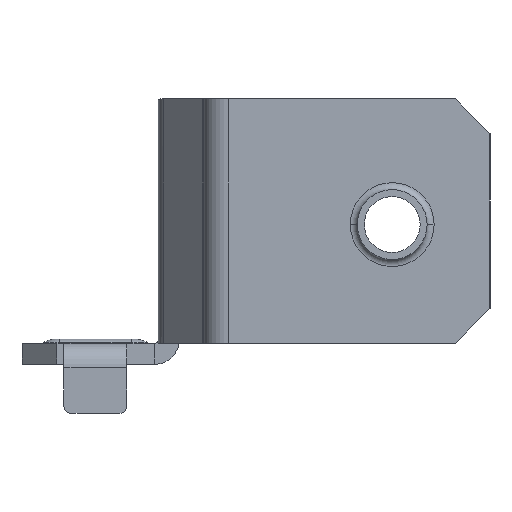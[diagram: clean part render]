
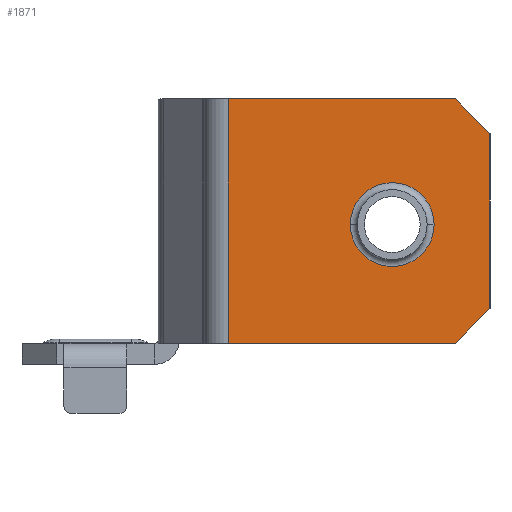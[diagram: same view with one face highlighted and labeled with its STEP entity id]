
A CAD part, left-side view. The second image highlights one B-rep face of the part: STEP entity #1871.
In plain terms, the highlighted planar face has unit normal (-1, 0, 0).
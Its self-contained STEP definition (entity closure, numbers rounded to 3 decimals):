
#232 = CARTESIAN_POINT ( 'NONE',  ( -35.339, -44.501, 30. ) ) ;
#583 = VECTOR ( 'NONE', #1451, 1000. ) ;
#662 = FACE_OUTER_BOUND ( 'NONE', #3016, .T. ) ;
#705 = CARTESIAN_POINT ( 'NONE',  ( -35.339, -7.001, 0. ) ) ;
#761 = DIRECTION ( 'NONE',  ( 1., 0., 0. ) ) ;
#793 = PLANE ( 'NONE',  #2130 ) ;
#794 = CARTESIAN_POINT ( 'NONE',  ( -35.339, -44.501, 5. ) ) ;
#816 = EDGE_CURVE ( 'NONE', #2489, #2103, #2061, .T. ) ;
#822 = CARTESIAN_POINT ( 'NONE',  ( -35.339, -39.501, 35. ) ) ;
#865 = DIRECTION ( 'NONE',  ( 0., 1., 0. ) ) ;
#927 = EDGE_CURVE ( 'NONE', #1889, #1491, #2475, .T. ) ;
#970 = CARTESIAN_POINT ( 'NONE',  ( -35.339, -6.501, 0. ) ) ;
#1127 = ORIENTED_EDGE ( 'NONE', *, *, #816, .T. ) ;
#1199 = DIRECTION ( 'NONE',  ( 0., 0., 1. ) ) ;
#1309 = CARTESIAN_POINT ( 'NONE',  ( -35.339, -39.501, 35. ) ) ;
#1378 = EDGE_CURVE ( 'NONE', #1491, #2489, #1424, .T. ) ;
#1424 = LINE ( 'NONE', #1751, #2346 ) ;
#1451 = DIRECTION ( 'NONE',  ( 0., 0., 1. ) ) ;
#1491 = VERTEX_POINT ( 'NONE', #3134 ) ;
#1633 = VECTOR ( 'NONE', #3778, 1000. ) ;
#1751 = CARTESIAN_POINT ( 'NONE',  ( -35.339, -44.501, 0. ) ) ;
#1835 = LINE ( 'NONE', #2524, #1939 ) ;
#1871 = ADVANCED_FACE ( 'NONE', ( #2112, #662 ), #793, .F. ) ;
#1886 = EDGE_CURVE ( 'NONE', #2103, #2306, #1835, .T. ) ;
#1889 = VERTEX_POINT ( 'NONE', #3135 ) ;
#1898 = ORIENTED_EDGE ( 'NONE', *, *, #927, .T. ) ;
#1925 = CARTESIAN_POINT ( 'NONE',  ( -35.339, -7.001, 35. ) ) ;
#1939 = VECTOR ( 'NONE', #1947, 1000. ) ;
#1947 = DIRECTION ( 'NONE',  ( 0., 1., 0. ) ) ;
#1974 = CARTESIAN_POINT ( 'NONE',  ( -35.339, -6.501, 0. ) ) ;
#1986 = ORIENTED_EDGE ( 'NONE', *, *, #3104, .T. ) ;
#2002 = VERTEX_POINT ( 'NONE', #2784 ) ;
#2061 = LINE ( 'NONE', #1309, #2965 ) ;
#2103 = VERTEX_POINT ( 'NONE', #822 ) ;
#2112 = FACE_BOUND ( 'NONE', #3731, .T. ) ;
#2128 = LINE ( 'NONE', #1925, #583 ) ;
#2130 = AXIS2_PLACEMENT_3D ( 'NONE', #1974, #3711, #2263 ) ;
#2178 = VERTEX_POINT ( 'NONE', #705 ) ;
#2204 = CARTESIAN_POINT ( 'NONE',  ( -35.339, -30.501, 17. ) ) ;
#2241 = CARTESIAN_POINT ( 'NONE',  ( -35.339, -36.501, 17. ) ) ;
#2263 = DIRECTION ( 'NONE',  ( 0., 1., 0. ) ) ;
#2306 = VERTEX_POINT ( 'NONE', #3248 ) ;
#2346 = VECTOR ( 'NONE', #1199, 1000. ) ;
#2350 = AXIS2_PLACEMENT_3D ( 'NONE', #3779, #2597, #865 ) ;
#2405 = LINE ( 'NONE', #970, #1633 ) ;
#2456 = CIRCLE ( 'NONE', #3145, 6. ) ;
#2475 = LINE ( 'NONE', #794, #2559 ) ;
#2489 = VERTEX_POINT ( 'NONE', #232 ) ;
#2506 = DIRECTION ( 'NONE',  ( 0., 0.707, 0.707 ) ) ;
#2524 = CARTESIAN_POINT ( 'NONE',  ( -35.339, -6.501, 35. ) ) ;
#2559 = VECTOR ( 'NONE', #3674, 1000. ) ;
#2597 = DIRECTION ( 'NONE',  ( 1., 0., 0. ) ) ;
#2652 = DIRECTION ( 'NONE',  ( 0., 1., 0. ) ) ;
#2784 = CARTESIAN_POINT ( 'NONE',  ( -35.339, -24.501, 17. ) ) ;
#2817 = EDGE_CURVE ( 'NONE', #2902, #2002, #2456, .T. ) ;
#2874 = EDGE_CURVE ( 'NONE', #2002, #2902, #3231, .T. ) ;
#2893 = ORIENTED_EDGE ( 'NONE', *, *, #3256, .F. ) ;
#2902 = VERTEX_POINT ( 'NONE', #2241 ) ;
#2965 = VECTOR ( 'NONE', #2506, 1000. ) ;
#2967 = ORIENTED_EDGE ( 'NONE', *, *, #1378, .T. ) ;
#3016 = EDGE_LOOP ( 'NONE', ( #1986, #1898, #2967, #1127, #3030, #2893 ) ) ;
#3030 = ORIENTED_EDGE ( 'NONE', *, *, #1886, .T. ) ;
#3104 = EDGE_CURVE ( 'NONE', #2178, #1889, #2405, .T. ) ;
#3134 = CARTESIAN_POINT ( 'NONE',  ( -35.339, -44.501, 5. ) ) ;
#3135 = CARTESIAN_POINT ( 'NONE',  ( -35.339, -39.501, 0. ) ) ;
#3145 = AXIS2_PLACEMENT_3D ( 'NONE', #2204, #761, #2652 ) ;
#3170 = ORIENTED_EDGE ( 'NONE', *, *, #2817, .T. ) ;
#3231 = CIRCLE ( 'NONE', #2350, 6. ) ;
#3248 = CARTESIAN_POINT ( 'NONE',  ( -35.339, -7.001, 35. ) ) ;
#3256 = EDGE_CURVE ( 'NONE', #2178, #2306, #2128, .T. ) ;
#3670 = ORIENTED_EDGE ( 'NONE', *, *, #2874, .T. ) ;
#3674 = DIRECTION ( 'NONE',  ( 0., -0.707, 0.707 ) ) ;
#3711 = DIRECTION ( 'NONE',  ( 1., 0., 0. ) ) ;
#3731 = EDGE_LOOP ( 'NONE', ( #3670, #3170 ) ) ;
#3778 = DIRECTION ( 'NONE',  ( 0., -1., 0. ) ) ;
#3779 = CARTESIAN_POINT ( 'NONE',  ( -35.339, -30.501, 17. ) ) ;
